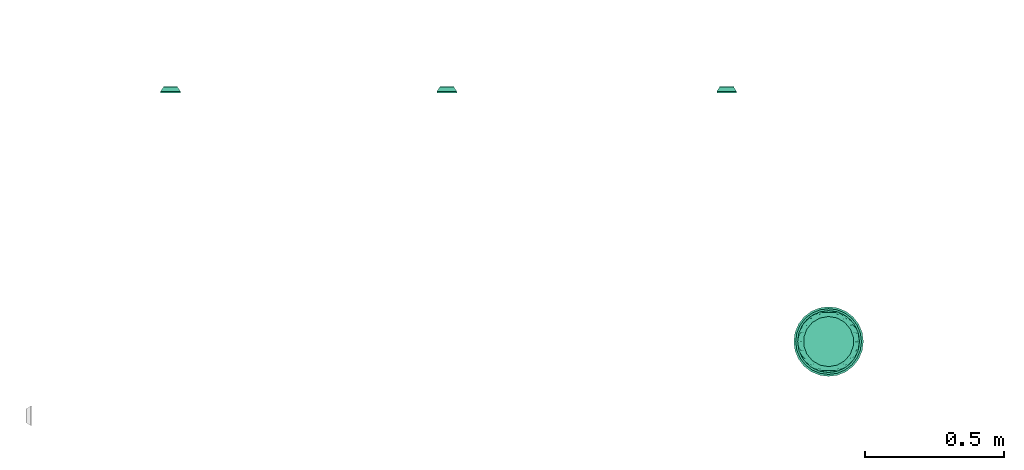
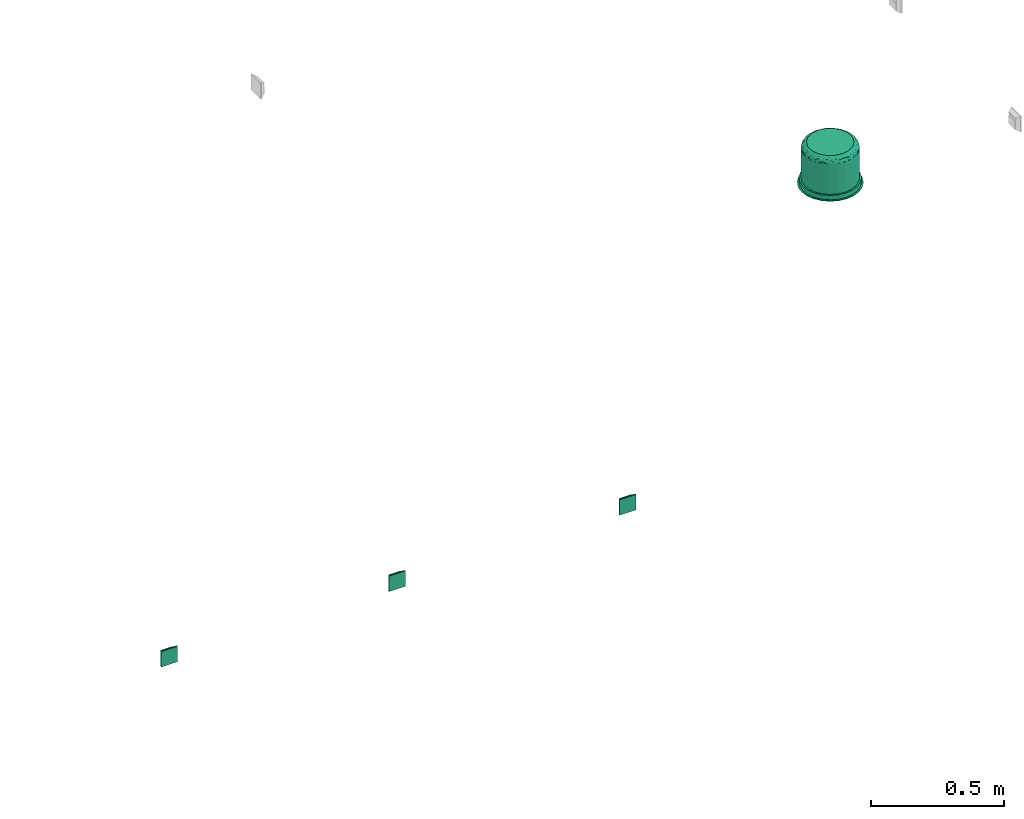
# One storey, part 2 of 5: 4 flow terminals.
"""IFC2X3 building model written with IfcOpenShell, lengths in millimetres."""

from ifc_helpers import new_model, entity, si_unit, converted_unit, derived_unit, direction, frame, origin_with_axes, place, context, subcontext, project, spatial, open_shell, surface_model, source, transform, mapped, type_object, element, save


model = new_model("IFC2X3")

# Units and contexts
model_context = context("Model", 3, precision=0.01, world=frame((0.0, 4.29681676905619e-09, 0.0)), true_north=direction((4.01073788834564e-13, 1.0)))
plan_context = context("Plan", 3, precision=0.01, world=frame((0.0, 4.29681676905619e-09, 0.0)), true_north=direction((4.01073788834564e-13, 1.0)))
body_context = subcontext(model_context, "Body", "Model", "MODEL_VIEW")
ifc_project = project(units=[converted_unit("PLANEANGLEUNIT", "DEGREE", entity("IfcPositiveLengthMeasure", 0.0174532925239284), si_unit("PLANEANGLEUNIT", "RADIAN"), dimensions=[0, 0, 0, 0, 0, 0, 0]), si_unit("AREAUNIT", "SQUARE_METRE"), si_unit("LENGTHUNIT", "METRE", prefix="MILLI"), si_unit("MASSUNIT", "GRAM", prefix="KILO"), si_unit("POWERUNIT", "WATT"), si_unit("PRESSUREUNIT", "PASCAL"), si_unit("FORCEUNIT", "NEWTON", prefix="KILO"), si_unit("ELECTRICVOLTAGEUNIT", "VOLT"), si_unit("ELECTRICCURRENTUNIT", "AMPERE"), si_unit("THERMODYNAMICTEMPERATUREUNIT", "DEGREE_CELSIUS"), si_unit("TIMEUNIT", "SECOND"), si_unit("VOLUMEUNIT", "CUBIC_METRE"), derived_unit("LINEARVELOCITYUNIT", [(si_unit("LENGTHUNIT", "METRE"), 1), (si_unit("TIMEUNIT", "SECOND"), -1)]), derived_unit("VOLUMETRICFLOWRATEUNIT", [(si_unit("VOLUMEUNIT", "CUBIC_METRE"), 1), (si_unit("TIMEUNIT", "SECOND"), -1)]), derived_unit("THERMALTRANSMITTANCEUNIT", [(si_unit("POWERUNIT", "WATT"), 1), (si_unit("THERMODYNAMICTEMPERATUREUNIT", "KELVIN"), -1), (si_unit("AREAUNIT", "SQUARE_METRE"), -1)]), derived_unit("SOUNDPRESSUREUNIT", [(si_unit("PRESSUREUNIT", "PASCAL"), 1)])], contexts=[model_context, plan_context])

# Site, building, storey
site_placement = place(None, frame((0.0, -4.29681676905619e-09, 0.0), z_axis=(0.0, 0.0, 1.0), x_axis=(1.0, 0.0, 0.0)))
site = spatial("IfcSite", under=ifc_project, at=site_placement, Name="ENGM", CompositionType="ELEMENT")
building_placement = place(site_placement, frame((0.0, 4.29681676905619e-09, 0.0), z_axis=(0.0, 0.0, 1.0), x_axis=(1.0, 0.0, 0.0)))
building = spatial("IfcBuilding", under=site, at=building_placement, Name="TS", CompositionType="ELEMENT")
storey_placement = place(building_placement, frame((0.0, 0.0, 210900.0), z_axis=(0.0, 0.0, 1.0), x_axis=(1.0, 0.0, 0.0)))
storey = spatial("IfcBuildingStorey", under=building, at=storey_placement, Name="Nivå F", CompositionType="ELEMENT", Elevation=210900.0)

# Flow terminals
outlet_type = type_object("IfcOutletType", Name="Datauttak enkelt Vegg - IKT", PredefinedType="COMMUNICATIONSOUTLET")
shared_shape_1 = source(origin_with_axes(), body_context, "Body", "SurfaceModel", [
    surface_model("IfcShellBasedSurfaceModel", [(35.5, 5.05547, 35.5832), (25.5, 20.05547, 25.5832), (-35.5, 5.05547, 35.5832), (-25.5, 20.05547, 25.5832), (-35.5, 4.94453, 35.41679), (-25.5, 19.94453, 25.41679), (25.5, 19.94453, 25.41679), (35.5, 4.94453, 35.41679), (35.5, 4.94453, -35.41679), (25.5, 19.94453, -25.41679), (-35.5, 4.94453, -35.41679), (-25.5, 19.94453, -25.41679), (-35.5, 5.05547, -35.5832), (-25.5, 20.05547, -25.5832), (25.5, 20.05547, -25.5832), (35.5, 5.05547, -35.5832), (-25.5832, 20.05547, -25.5), (-35.5832, 5.05547, -35.5), (-35.5832, 5.05547, 35.5), (-25.5832, 20.05547, 25.5), (-25.41679, 19.94453, 25.5), (-35.41679, 4.94453, 35.5), (-25.41679, 19.94453, -25.5), (-35.41679, 4.94453, -35.5), (25.41679, 19.94453, -25.5), (35.41679, 4.94453, -35.5), (35.41679, 4.94453, 35.5), (25.41679, 19.94453, 25.5), (25.5832, 20.05547, 25.5), (35.5832, 5.05547, 35.5), (25.5832, 20.05547, -25.5), (35.5832, 5.05547, -35.5), (35.4, 5.0, -35.5), (35.4, 0.0, -35.5), (35.4, 0.0, 35.5), (35.4, 5.0, 35.5), (35.6, 5.0, 35.5), (35.6, 0.0, 35.5), (35.6, 0.0, -35.5), (35.6, 5.0, -35.5), (-35.5, 0.0, -35.6), (-35.5, 5.0, -35.6), (35.5, 5.0, -35.6), (35.5, 0.0, -35.6), (35.5, 0.0, -35.4), (35.5, 5.0, -35.4), (-35.5, 5.0, -35.4), (-35.5, 0.0, -35.4), (-35.6, 5.0, -35.5), (-35.6, 0.0, -35.5), (-35.6, 0.0, 35.5), (-35.6, 5.0, 35.5), (-35.4, 5.0, 35.5), (-35.4, 0.0, 35.5), (-35.4, 0.0, -35.5), (-35.4, 5.0, -35.5), (-35.5, -0.1, -35.5), (35.5, -0.1, -35.5), (35.5, -0.1, 35.5), (-35.5, -0.1, 35.5), (-35.5, 0.1, 35.5), (35.5, 0.1, 35.5), (35.5, 0.1, -35.5), (-35.5, 0.1, -35.5), (-35.5, 0.0, 35.4), (-35.5, 5.0, 35.4), (35.5, 5.0, 35.4), (35.5, 0.0, 35.4), (35.5, 0.0, 35.6), (35.5, 5.0, 35.6), (-35.5, 5.0, 35.6), (-35.5, 0.0, 35.6), (-25.5, 19.9, -25.5), (25.5, 19.9, -25.5), (25.5, 19.9, 25.5), (-25.5, 19.9, 25.5), (-25.5, 20.1, 25.5), (25.5, 20.1, 25.5), (25.5, 20.1, -25.5), (-25.5, 20.1, -25.5), (-7.5, 21.91, -6.5), (7.5, 21.91, -6.5), (7.5, 21.91, 8.5), (-7.5, 21.91, 8.5), (-7.5, 22.11, 8.5), (7.5, 22.11, 8.5), (-7.5, 22.11, -6.5), (7.5, 22.11, -6.5), (-25.5, 22.0, 25.5), (-25.5, 20.0, 25.5), (25.5, 20.0, 25.5), (25.5, 22.0, 25.5), (25.5, 22.0, 20.5), (25.5, 20.0, 20.5), (-25.5, 20.0, 20.5), (-25.5, 22.0, 20.5), (-25.5, 22.0, 10.5), (-25.5, 20.0, 10.5), (25.5, 20.0, 10.5), (25.5, 22.0, 10.5), (25.5, 22.0, -25.5), (25.5, 20.0, -25.5), (-25.5, 20.0, -25.5), (-25.5, 22.0, -25.5)], [open_shell([[[0, 1, 2]], [[3, 2, 1]], [[4, 5, 6]], [[6, 7, 4]], [[3, 1, 6]], [[6, 5, 3]], [[2, 3, 4]], [[5, 4, 3]], [[0, 2, 7]], [[4, 7, 2]], [[1, 0, 6]], [[7, 6, 0]], [[8, 9, 10]], [[11, 10, 9]], [[12, 13, 14]], [[14, 15, 12]], [[11, 9, 14]], [[14, 13, 11]], [[10, 11, 12]], [[13, 12, 11]], [[8, 10, 12]], [[12, 15, 8]], [[9, 8, 14]], [[15, 14, 8]], [[16, 17, 18]], [[18, 19, 16]], [[20, 21, 22]], [[23, 22, 21]], [[18, 17, 23]], [[23, 21, 18]], [[19, 18, 20]], [[21, 20, 18]], [[16, 19, 20]], [[20, 22, 16]], [[17, 16, 22]], [[22, 23, 17]], [[24, 25, 26]], [[26, 27, 24]], [[28, 29, 30]], [[31, 30, 29]], [[26, 25, 31]], [[31, 29, 26]], [[27, 26, 28]], [[29, 28, 26]], [[24, 27, 28]], [[28, 30, 24]], [[25, 24, 30]], [[30, 31, 25]], [[32, 33, 34]], [[34, 35, 32]], [[36, 37, 38]], [[38, 39, 36]], [[34, 33, 38]], [[38, 37, 34]], [[35, 34, 37]], [[37, 36, 35]], [[32, 35, 36]], [[36, 39, 32]], [[33, 32, 39]], [[39, 38, 33]], [[40, 41, 42]], [[42, 43, 40]], [[44, 45, 46]], [[46, 47, 44]], [[42, 41, 46]], [[46, 45, 42]], [[43, 42, 45]], [[45, 44, 43]], [[40, 43, 44]], [[44, 47, 40]], [[41, 40, 47]], [[47, 46, 41]], [[48, 49, 50]], [[50, 51, 48]], [[52, 53, 54]], [[54, 55, 52]], [[50, 49, 54]], [[54, 53, 50]], [[51, 50, 53]], [[53, 52, 51]], [[48, 51, 52]], [[52, 55, 48]], [[49, 48, 55]], [[55, 54, 49]], [[56, 57, 58]], [[58, 59, 56]], [[60, 61, 62]], [[62, 63, 60]], [[58, 57, 62]], [[62, 61, 58]], [[59, 58, 61]], [[61, 60, 59]], [[56, 59, 60]], [[60, 63, 56]], [[57, 56, 63]], [[63, 62, 57]], [[64, 65, 66]], [[66, 67, 64]], [[68, 69, 70]], [[70, 71, 68]], [[66, 65, 70]], [[70, 69, 66]], [[67, 66, 69]], [[69, 68, 67]], [[64, 67, 68]], [[68, 71, 64]], [[65, 64, 71]], [[71, 70, 65]], [[72, 73, 74]], [[74, 75, 72]], [[76, 77, 78]], [[78, 79, 76]], [[74, 73, 78]], [[78, 77, 74]], [[75, 74, 77]], [[77, 76, 75]], [[72, 75, 76]], [[76, 79, 72]], [[73, 72, 79]], [[79, 78, 73]], [[80, 81, 82]], [[82, 83, 80]], [[84, 85, 86]], [[87, 86, 85]], [[82, 81, 87]], [[87, 85, 82]], [[83, 82, 85]], [[85, 84, 83]], [[80, 83, 84]], [[84, 86, 80]], [[81, 80, 86]], [[86, 87, 81]], [[88, 89, 90]], [[90, 91, 88]], [[92, 93, 94]], [[94, 95, 92]], [[90, 89, 94]], [[94, 93, 90]], [[91, 90, 93]], [[93, 92, 91]], [[88, 91, 92]], [[92, 95, 88]], [[89, 88, 95]], [[95, 94, 89]], [[96, 97, 98]], [[98, 99, 96]], [[100, 101, 102]], [[102, 103, 100]], [[98, 97, 102]], [[102, 101, 98]], [[99, 98, 101]], [[101, 100, 99]], [[96, 99, 100]], [[100, 103, 96]], [[97, 96, 103]], [[103, 102, 97]]])]),
])
for number, where, z_axis, x_axis, name in (
    (1, (531367.69861, 443207.0, 1100.0), (0.0, 0.0, 1.0), (1.0, 0.0, 0.0), "Datauttak enkelt Vegg - IKT"),
    (2, (532359.58685, 443207.0, 1100.0), (0.0, 0.0, 1.0), (1.0, 0.0, 0.0), "Datauttak enkelt Vegg - IKT"),
    (3, (533363.76866, 443207.1, 1100.0), (0.0, 0.0, 1.0), (1.0, 0.0, 0.0), "Datauttak enkelt Vegg - IKT"),
):
    element("IfcFlowTerminal", number, at=place(storey_placement, frame(where, z_axis=z_axis, x_axis=x_axis)), inside=storey, type_object=outlet_type, Name=name, context=body_context, shape_type="MappedRepresentation", body=[
        mapped(shared_shape_1, transform((0.0, 0.0, 0.0), scale=1.0)),
    ])
electric_appliance_type = type_object("IfcElectricApplianceType", Name="Høyttaler innfelt", PredefinedType="NOTDEFINED")
shared_shape_2 = source(origin_with_axes(), body_context, "Body", "SurfaceModel", [
    surface_model("IfcShellBasedSurfaceModel", [(-68.944, 57.85088, 184.0), (-58.59195, 79.97902, 179.50754), (-80.0329, 55.28406, 180.76938), (-78.29994, 75.83774, 166.88554), (-50.40099, 96.24365, 167.73947), (-65.24416, 89.80089, 159.0), (-45.0, 77.94229, 184.0), (104.29833, 0.0, 174.69059), (98.55658, 30.89802, 175.83351), (97.14917, 0.0, 179.3453), (-98.55658, 30.89802, 175.83351), (-104.29833, 0.0, 174.69059), (-97.14917, 0.0, 179.3453), (93.09772, 49.71788, 173.10261), (104.32878, 23.10743, 171.13623), (97.92626, 46.3605, 168.38431), (-15.62834, 88.6327, 184.0), (-30.79138, 92.23996, 180.78615), (-104.32878, 23.10743, 171.13623), (55.89313, 88.54638, 174.18746), (30.93861, 99.42219, 174.89528), (58.59195, 79.97902, 179.50754), (-97.92626, 46.3605, 168.38431), (-93.09772, 49.71788, 173.10261), (-61.47959, 85.0435, 173.90083), (-30.93861, 99.42219, 174.89528), (45.0, 77.94229, 184.0), (68.944, 57.85088, 184.0), (-84.57234, 30.78181, 184.0), (-92.49153, 28.27678, 181.10339), (-89.80089, 65.24416, 159.0), (17.39577, 107.47851, 167.19599), (34.30089, 105.56728, 159.0), (0.0, 111.0, 159.0), (-34.30089, 105.56728, 159.0), (-17.39574, 107.47094, 167.21376), (30.79138, 92.23996, 180.78615), (0.0, 99.14465, 179.50754), (15.62834, 88.6327, 184.0), (-81.90835, 64.40302, 174.81219), (0.05017, 105.30857, 173.41796), (80.0329, 55.28406, 180.76938), (84.57234, 30.78181, 184.0), (90.0, 0.0, 184.0), (92.49153, 28.27678, 181.10339), (50.40099, 96.24365, 167.73947), (89.80089, 65.24416, 159.0), (105.56728, 34.30089, 159.0), (65.24416, 89.80089, 159.0), (-105.56728, 34.30089, 159.0), (78.29994, 75.83774, 166.88554), (105.52114, 29.61929, 165.29825), (90.11049, 46.65977, 177.6147), (-90.11049, 46.65977, 177.6147), (-107.8502, 0.0, 166.3746), (-105.52114, 29.61929, 165.29825), (-90.0, 0.0, 184.0), (81.90835, 64.40302, 174.81219), (-111.0, 0.0, 159.0), (111.0, 0.0, 159.0), (107.8502, 0.0, 166.3746), (68.944, -57.85088, 184.0), (58.59195, -79.97902, 179.50754), (80.0329, -55.28406, 180.76938), (78.29994, -75.83774, 166.88554), (50.40099, -96.24365, 167.73947), (65.24416, -89.80089, 159.0), (45.0, -77.94229, 184.0), (-98.55658, -30.89802, 175.83351), (98.55658, -30.89802, 175.83351), (-93.09772, -49.71788, 173.10261), (-104.32878, -23.10743, 171.13623), (-97.92626, -46.3605, 168.38431), (15.62834, -88.6327, 184.0), (30.79138, -92.23996, 180.78615), (104.32878, -23.10743, 171.13623), (-55.89313, -88.54638, 174.18746), (-30.93861, -99.42219, 174.89528), (-58.59195, -79.97902, 179.50754), (97.92626, -46.3605, 168.38431), (93.09772, -49.71788, 173.10261), (61.47959, -85.0435, 173.90083), (30.93861, -99.42219, 174.89528), (-45.0, -77.94229, 184.0), (-68.944, -57.85088, 184.0), (84.57234, -30.78181, 184.0), (92.49153, -28.27678, 181.10339), (89.80089, -65.24416, 159.0), (-17.39577, -107.47851, 167.19599), (-34.30089, -105.56728, 159.0), (0.0, -111.0, 159.0), (34.30089, -105.56728, 159.0), (17.39574, -107.47094, 167.21376), (81.90835, -64.40302, 174.81219), (-30.79138, -92.23996, 180.78615), (-15.62834, -88.6327, 184.0), (0.0, -99.14465, 179.50754), (-0.05017, -105.30857, 173.41796), (-80.0329, -55.28406, 180.76938), (-84.57234, -30.78181, 184.0), (-92.49153, -28.27678, 181.10339), (-50.40099, -96.24365, 167.73947), (-89.80089, -65.24416, 159.0), (-105.56728, -34.30089, 159.0), (-65.24416, -89.80089, 159.0), (-78.29994, -75.83774, 166.88554), (-90.11049, -46.65977, 177.6147), (-105.52114, -29.61929, 165.29825), (105.56728, -34.30089, 159.0), (90.11049, -46.65977, 177.6147), (105.52114, -29.61929, 165.29825), (-81.90835, -64.40302, 174.81219), (0.0, 0.0, 159.0), (0.0, 0.0, 184.0), (96.12882, -55.5, 159.0), (28.72892, -107.21777, 159.0), (55.5, -96.12882, 159.0), (78.48885, -78.48885, 159.0), (107.21777, -28.72892, 159.0), (-78.48885, -78.48885, 159.0), (-96.12882, 55.5, 159.0), (-55.5, -96.12882, 159.0), (-28.72892, -107.21777, 159.0), (-96.12882, -55.5, 159.0), (-107.21777, -28.72892, 159.0), (107.21777, 28.72892, 159.0), (55.5, 96.12882, 159.0), (96.12882, 55.5, 159.0), (78.48885, 78.48885, 159.0), (28.72892, 107.21777, 159.0), (-28.72892, 107.21777, 159.0), (-107.21777, 28.72892, 159.0), (-78.48885, 78.48885, 159.0), (-55.5, 96.12882, 159.0), (28.72892, 107.21777, 20.0), (-28.72892, 107.21777, 20.0), (0.0, 111.0, 20.0), (96.12882, 55.5, 20.0), (55.5, 96.12882, 20.0), (107.21777, 28.72892, 20.0), (78.48885, 78.48885, 20.0), (-96.12882, 55.5, 20.0), (-78.48885, 78.48885, 20.0), (-55.5, 96.12882, 20.0), (-107.21777, 28.72892, 20.0), (-96.12882, -55.5, 20.0), (-111.0, 0.0, 20.0), (-78.48885, -78.48885, 20.0), (111.0, 0.0, 20.0), (107.21777, -28.72892, 20.0), (96.12882, -55.5, 20.0), (28.72892, -107.21777, 20.0), (55.5, -96.12882, 20.0), (78.48885, -78.48885, 20.0), (-107.21777, -28.72892, 20.0), (-55.5, -96.12882, 20.0), (0.0, -111.0, 20.0), (-28.72892, -107.21777, 20.0), (0.0, -118.0, 20.0), (30.54065, -113.97924, 20.0), (59.0, -102.191, 20.0), (83.4386, -83.4386, 20.0), (102.191, -59.0, 20.0), (113.97924, -30.54065, 20.0), (118.0, 0.0, 20.0), (-30.54065, -113.97924, 20.0), (-83.4386, -83.4386, 20.0), (-59.0, -102.191, 20.0), (-118.0, 0.0, 20.0), (-102.191, -59.0, 20.0), (-113.97924, -30.54065, 20.0), (113.97924, 30.54065, 20.0), (102.191, 59.0, 20.0), (83.4386, 83.4386, 20.0), (59.0, 102.191, 20.0), (30.54065, 113.97924, 20.0), (0.0, 118.0, 20.0), (-30.54065, 113.97924, 20.0), (-102.191, 59.0, 20.0), (-113.97924, 30.54065, 20.0), (-83.4386, 83.4386, 20.0), (-59.0, 102.191, 20.0), (0.0, 118.0, 0.0), (30.54065, 113.97924, 0.0), (59.0, 102.191, 0.0), (-83.4386, 83.4386, 0.0), (83.4386, 83.4386, 0.0), (102.191, 59.0, 0.0), (113.97924, 30.54065, 0.0), (-118.0, 0.0, 0.0), (-113.97924, -30.54065, 0.0), (-30.54065, 113.97924, 0.0), (-59.0, 102.191, 0.0), (-102.191, 59.0, 0.0), (-113.97924, 30.54065, 0.0), (118.0, 0.0, 0.0), (113.97924, -30.54065, 0.0), (102.191, -59.0, 0.0), (83.4386, -83.4386, 0.0), (59.0, -102.191, 0.0), (30.54065, -113.97924, 0.0), (-83.4386, -83.4386, 0.0), (-102.191, -59.0, 0.0), (-30.54065, -113.97924, 0.0), (-59.0, -102.191, 0.0), (0.0, -118.0, 0.0), (-32.35238, 120.74073, 0.0), (-62.5, 108.25318, 0.0), (-88.38835, 88.38835, 0.0), (-108.25318, 62.5, 0.0), (-120.74073, 32.35238, 0.0), (62.5, 108.25318, 0.0), (-125.0, 0.0, 0.0), (0.0, 125.0, 0.0), (32.35238, 120.74073, 0.0), (88.38835, 88.38835, 0.0), (120.74073, 32.35238, 0.0), (108.25318, 62.5, 0.0), (-120.74073, -32.35238, 0.0), (125.0, 0.0, 0.0), (-108.25318, -62.5, 0.0), (-32.35238, -120.74073, 0.0), (-88.38835, -88.38835, 0.0), (-62.5, -108.25318, 0.0), (0.0, -125.0, 0.0), (120.74073, -32.35238, 0.0), (88.38835, -88.38835, 0.0), (108.25318, -62.5, 0.0), (32.35238, -120.74073, 0.0), (62.5, -108.25318, 0.0), (-32.35238, -120.74073, -3.0), (88.38835, -88.38835, -3.0), (0.0, -125.0, -3.0), (-88.38835, -88.38835, -3.0), (-62.5, -108.25318, -3.0), (-108.25318, -62.5, -3.0), (-120.74073, -32.35238, -3.0), (88.38835, 88.38835, -3.0), (32.35238, -120.74073, -3.0), (62.5, -108.25318, -3.0), (120.74073, -32.35238, -3.0), (108.25318, -62.5, -3.0), (125.0, 0.0, -3.0), (-125.0, 0.0, -3.0), (-120.74073, 32.35238, -3.0), (-32.35238, 120.74073, -3.0), (-108.25318, 62.5, -3.0), (-88.38835, 88.38835, -3.0), (-62.5, 108.25318, -3.0), (120.74073, 32.35238, -3.0), (108.25318, 62.5, -3.0), (62.5, 108.25318, -3.0), (0.0, 125.0, -3.0), (32.35238, 120.74073, -3.0), (-84.57234, 30.78181, -6.0), (-102.5, 0.0, -5.0), (-96.31849, 35.05706, -5.0), (-45.0, 77.94229, -6.0), (-78.51955, 65.88573, -5.0), (-51.25, 88.7676, -5.0), (-68.944, 57.85088, -6.0), (-17.79894, 100.94279, -5.0), (-15.62834, 88.6327, -6.0), (-90.0, 0.0, -6.0), (15.62834, 88.6327, -6.0), (45.0, 77.94229, -6.0), (17.79894, 100.94279, -5.0), (51.25, 88.7676, -5.0), (96.31849, 35.05706, -5.0), (102.5, 0.0, -5.0), (90.0, 0.0, -6.0), (78.51955, 65.88573, -5.0), (68.944, 57.85088, -6.0), (84.57234, 30.78181, -6.0), (84.57234, -30.78181, -6.0), (96.31849, -35.05706, -5.0), (45.0, -77.94229, -6.0), (78.51955, -65.88573, -5.0), (51.25, -88.7676, -5.0), (68.944, -57.85088, -6.0), (17.79894, -100.94279, -5.0), (15.62834, -88.6327, -6.0), (-15.62834, -88.6327, -6.0), (-45.0, -77.94229, -6.0), (-17.79894, -100.94279, -5.0), (-51.25, -88.7676, -5.0), (-84.57234, -30.78181, -6.0), (-78.51955, -65.88573, -5.0), (-96.31849, -35.05706, -5.0), (-68.944, -57.85088, -6.0), (0.0, 0.0, -6.0), (106.99386, 34.76441, -3.0), (0.0, 0.0, -3.0), (112.5, 0.0, -3.0), (91.01441, 66.12584, -3.0), (66.12584, 91.01441, -3.0), (34.76441, 106.99386, -3.0), (0.0, 112.5, -3.0), (-91.01441, 66.12584, -3.0), (-106.99386, 34.76441, -3.0), (-66.12584, 91.01441, -3.0), (-34.76441, 106.99386, -3.0), (-112.5, 0.0, -3.0), (66.12584, -91.01441, -3.0), (91.01441, -66.12584, -3.0), (34.76441, -106.99386, -3.0), (106.99386, -34.76441, -3.0), (0.0, -112.5, -3.0), (-66.12584, -91.01441, -3.0), (-34.76441, -106.99386, -3.0), (-91.01441, -66.12584, -3.0), (-106.99386, -34.76441, -3.0)], [open_shell([[[0, 1, 2]], [[3, 4, 5]], [[0, 6, 1]], [[7, 8, 9]], [[10, 11, 12]], [[13, 14, 15]], [[7, 14, 8]], [[6, 16, 17]], [[18, 11, 10]], [[19, 20, 21]], [[22, 23, 3]], [[24, 25, 4]], [[26, 27, 21]], [[28, 2, 29]], [[3, 5, 30]], [[31, 32, 33]], [[33, 34, 35]], [[36, 37, 38]], [[4, 35, 34]], [[1, 24, 39]], [[26, 36, 38]], [[17, 37, 25]], [[20, 31, 40]], [[21, 20, 36]], [[41, 21, 27]], [[41, 27, 42]], [[0, 2, 28]], [[43, 9, 44]], [[20, 19, 45]], [[46, 15, 47]], [[17, 1, 6]], [[31, 20, 45]], [[48, 32, 45]], [[30, 49, 22]], [[34, 5, 4]], [[15, 46, 50]], [[14, 51, 15]], [[48, 50, 46]], [[33, 35, 31]], [[8, 13, 52]], [[2, 39, 53]], [[37, 16, 38]], [[54, 18, 55]], [[28, 29, 56]], [[45, 19, 50]], [[37, 17, 16]], [[1, 17, 25]], [[21, 36, 26]], [[37, 36, 20]], [[1, 39, 2]], [[23, 53, 39]], [[44, 41, 42]], [[57, 21, 41]], [[10, 12, 29]], [[22, 18, 23]], [[13, 8, 14]], [[52, 41, 44]], [[4, 25, 35]], [[25, 37, 40]], [[31, 35, 40]], [[45, 32, 31]], [[22, 3, 30]], [[3, 39, 24]], [[45, 50, 48]], [[50, 57, 13]], [[58, 54, 55]], [[23, 18, 10]], [[59, 47, 51]], [[56, 29, 12]], [[43, 44, 42]], [[8, 44, 9]], [[25, 40, 35]], [[20, 40, 37]], [[25, 24, 1]], [[3, 24, 4]], [[21, 57, 19]], [[50, 19, 57]], [[53, 23, 10]], [[3, 23, 39]], [[10, 29, 53]], [[2, 53, 29]], [[50, 13, 15]], [[52, 13, 57]], [[41, 52, 57]], [[44, 8, 52]], [[55, 18, 22]], [[54, 11, 18]], [[22, 49, 55]], [[55, 49, 58]], [[7, 60, 14]], [[60, 59, 51]], [[60, 51, 14]], [[47, 15, 51]], [[61, 62, 63]], [[64, 65, 66]], [[61, 67, 62]], [[11, 68, 12]], [[69, 7, 9]], [[70, 71, 72]], [[11, 71, 68]], [[67, 73, 74]], [[75, 7, 69]], [[76, 77, 78]], [[79, 80, 64]], [[81, 82, 65]], [[83, 84, 78]], [[85, 63, 86]], [[64, 66, 87]], [[88, 89, 90]], [[90, 91, 92]], [[91, 66, 65]], [[65, 92, 91]], [[62, 81, 93]], [[83, 94, 95]], [[74, 96, 82]], [[77, 88, 97]], [[78, 77, 94]], [[98, 78, 84]], [[98, 84, 99]], [[61, 63, 85]], [[56, 12, 100]], [[77, 76, 101]], [[102, 72, 103]], [[104, 105, 102]], [[88, 77, 101]], [[104, 89, 101]], [[68, 70, 106]], [[74, 62, 67]], [[72, 102, 105]], [[71, 107, 72]], [[87, 108, 79]], [[90, 92, 88]], [[94, 96, 95]], [[63, 93, 109]], [[96, 73, 95]], [[60, 75, 110]], [[85, 86, 43]], [[101, 76, 105]], [[96, 74, 73]], [[62, 74, 82]], [[78, 94, 83]], [[96, 94, 77]], [[62, 93, 63]], [[80, 109, 93]], [[100, 98, 99]], [[111, 78, 98]], [[69, 9, 86]], [[79, 75, 80]], [[70, 68, 71]], [[106, 98, 100]], [[65, 82, 92]], [[82, 96, 97]], [[88, 92, 97]], [[101, 89, 88]], [[79, 64, 87]], [[64, 93, 81]], [[101, 105, 104]], [[105, 111, 70]], [[59, 60, 110]], [[80, 75, 69]], [[58, 103, 107]], [[43, 86, 9]], [[56, 100, 99]], [[68, 100, 12]], [[82, 97, 92]], [[77, 97, 96]], [[82, 81, 62]], [[64, 81, 65]], [[78, 111, 76]], [[105, 76, 111]], [[109, 80, 69]], [[64, 80, 93]], [[69, 86, 109]], [[63, 109, 86]], [[105, 70, 72]], [[106, 70, 111]], [[98, 106, 111]], [[100, 68, 106]], [[110, 75, 79]], [[60, 7, 75]], [[79, 108, 110]], [[110, 108, 59]], [[11, 54, 71]], [[54, 58, 107]], [[54, 107, 71]], [[103, 72, 107]], [[59, 112, 47]], [[47, 112, 46]], [[112, 48, 46]], [[48, 112, 32]], [[112, 33, 32]], [[112, 49, 30]], [[30, 5, 112]], [[34, 33, 112]], [[112, 5, 34]], [[112, 58, 49]], [[112, 87, 66]], [[112, 66, 91]], [[112, 108, 87]], [[59, 108, 112]], [[91, 90, 112]], [[112, 89, 104]], [[112, 104, 102]], [[112, 103, 58]], [[103, 112, 102]], [[89, 112, 90]], [[27, 113, 42]], [[26, 113, 27]], [[113, 26, 38]], [[113, 43, 42]], [[28, 56, 113]], [[0, 28, 113]], [[16, 6, 113]], [[0, 113, 6]], [[38, 16, 113]], [[67, 61, 113]], [[61, 85, 113]], [[113, 85, 43]], [[73, 67, 113]], [[83, 95, 113]], [[84, 83, 113]], [[56, 99, 113]], [[84, 113, 99]], [[73, 113, 95]], [[114, 115, 116]], [[114, 116, 117]], [[114, 118, 59]], [[114, 59, 115]], [[119, 115, 120]], [[90, 121, 122]], [[90, 115, 121]], [[123, 58, 124]], [[121, 115, 119]], [[123, 119, 58]], [[125, 115, 59]], [[126, 125, 127]], [[126, 127, 128]], [[125, 129, 120]], [[129, 125, 126]], [[130, 129, 33]], [[119, 131, 58]], [[120, 131, 119]], [[132, 130, 133]], [[130, 132, 120]], [[129, 130, 120]], [[120, 115, 125]], [[134, 135, 136]], [[137, 134, 138]], [[137, 139, 134]], [[137, 138, 140]], [[141, 134, 139]], [[135, 142, 143]], [[142, 135, 141]], [[144, 145, 146]], [[141, 135, 134]], [[144, 141, 145]], [[141, 139, 147]], [[148, 149, 150]], [[150, 151, 139]], [[152, 151, 150]], [[152, 150, 153]], [[139, 151, 147]], [[146, 145, 154]], [[147, 145, 141]], [[155, 156, 157]], [[155, 147, 151]], [[156, 155, 151]], [[139, 148, 150]], [[124, 154, 145]], [[147, 123, 145]], [[121, 155, 157]], [[147, 155, 119]], [[122, 157, 156]], [[154, 58, 146]], [[154, 124, 58]], [[145, 123, 124]], [[147, 119, 123]], [[121, 119, 155]], [[157, 122, 121]], [[156, 90, 122]], [[115, 151, 152]], [[153, 116, 152]], [[114, 150, 149]], [[153, 150, 117]], [[118, 149, 148]], [[151, 115, 90]], [[152, 116, 115]], [[153, 117, 116]], [[150, 114, 117]], [[118, 114, 149]], [[148, 59, 118]], [[151, 90, 156]], [[125, 148, 139]], [[127, 139, 137]], [[126, 138, 134]], [[129, 134, 136]], [[139, 127, 125]], [[125, 59, 148]], [[140, 128, 127]], [[140, 138, 128]], [[128, 138, 126]], [[134, 129, 126]], [[140, 127, 137]], [[136, 33, 129]], [[130, 135, 143]], [[142, 133, 143]], [[120, 141, 144]], [[142, 141, 132]], [[131, 144, 146]], [[135, 130, 33]], [[143, 133, 130]], [[142, 132, 133]], [[141, 120, 132]], [[131, 120, 144]], [[146, 58, 131]], [[135, 33, 136]], [[158, 159, 160]], [[161, 158, 160]], [[162, 163, 164]], [[158, 161, 162]], [[158, 162, 164]], [[165, 166, 167]], [[166, 165, 158]], [[164, 166, 158]], [[166, 168, 169]], [[169, 168, 170]], [[168, 166, 164]], [[171, 172, 173]], [[168, 171, 173]], [[174, 175, 176]], [[168, 173, 174]], [[177, 174, 176]], [[168, 178, 179]], [[178, 168, 177]], [[180, 177, 181]], [[177, 180, 178]], [[168, 174, 177]], [[171, 168, 164]], [[182, 183, 184]], [[185, 182, 184]], [[186, 187, 188]], [[189, 184, 186]], [[190, 189, 186]], [[191, 185, 192]], [[191, 182, 185]], [[193, 189, 194]], [[185, 184, 193]], [[184, 189, 193]], [[186, 188, 190]], [[195, 196, 197]], [[197, 198, 188]], [[190, 198, 199]], [[198, 190, 188]], [[200, 190, 199]], [[200, 201, 202]], [[202, 190, 200]], [[201, 203, 204]], [[203, 201, 205]], [[205, 201, 200]], [[188, 195, 197]], [[190, 170, 189]], [[202, 169, 190]], [[167, 201, 204]], [[202, 201, 166]], [[165, 204, 203]], [[190, 169, 170]], [[170, 168, 189]], [[165, 167, 204]], [[166, 201, 167]], [[166, 169, 202]], [[158, 165, 203]], [[203, 205, 158]], [[200, 159, 205]], [[199, 160, 200]], [[162, 198, 197]], [[199, 198, 161]], [[163, 197, 196]], [[199, 161, 160]], [[160, 159, 200]], [[164, 163, 196]], [[162, 197, 163]], [[162, 161, 198]], [[195, 164, 196]], [[205, 159, 158]], [[188, 171, 195]], [[187, 172, 188]], [[174, 186, 184]], [[187, 186, 173]], [[175, 184, 183]], [[188, 172, 171]], [[171, 164, 195]], [[175, 174, 184]], [[173, 186, 174]], [[173, 172, 187]], [[176, 175, 183]], [[183, 182, 176]], [[191, 177, 182]], [[192, 181, 191]], [[179, 194, 189]], [[185, 180, 192]], [[192, 180, 181]], [[181, 177, 191]], [[193, 178, 180]], [[193, 194, 178]], [[178, 194, 179]], [[189, 168, 179]], [[193, 180, 185]], [[182, 177, 176]], [[206, 207, 208]], [[206, 208, 209]], [[206, 210, 211]], [[210, 206, 209]], [[211, 210, 212]], [[213, 211, 214]], [[213, 206, 211]], [[215, 216, 217]], [[218, 215, 211]], [[219, 216, 215]], [[218, 211, 212]], [[220, 219, 218]], [[221, 220, 222]], [[220, 221, 219]], [[221, 222, 223]], [[224, 219, 221]], [[225, 226, 227]], [[226, 225, 219]], [[226, 228, 229]], [[228, 226, 219]], [[219, 224, 228]], [[218, 219, 215]], [[230, 231, 232]], [[233, 230, 234]], [[235, 236, 230]], [[235, 230, 233]], [[230, 237, 231]], [[238, 231, 239]], [[238, 232, 231]], [[231, 240, 241]], [[240, 231, 242]], [[231, 237, 242]], [[230, 236, 243]], [[244, 237, 243]], [[245, 244, 246]], [[247, 248, 245]], [[247, 245, 246]], [[237, 244, 245]], [[249, 237, 250]], [[242, 237, 249]], [[251, 252, 253]], [[252, 251, 237]], [[245, 252, 237]], [[237, 230, 243]], [[249, 216, 242]], [[250, 217, 249]], [[211, 237, 251]], [[250, 237, 215]], [[214, 251, 253]], [[249, 217, 216]], [[216, 219, 242]], [[214, 211, 251]], [[215, 237, 211]], [[215, 217, 250]], [[213, 214, 253]], [[253, 252, 213]], [[245, 206, 252]], [[248, 207, 245]], [[209, 247, 246]], [[248, 247, 208]], [[210, 246, 244]], [[248, 208, 207]], [[207, 206, 245]], [[212, 210, 244]], [[209, 246, 210]], [[209, 208, 247]], [[243, 212, 244]], [[252, 206, 213]], [[236, 218, 243]], [[235, 220, 236]], [[223, 233, 234]], [[235, 233, 222]], [[221, 234, 230]], [[236, 220, 218]], [[218, 212, 243]], [[221, 223, 234]], [[222, 233, 223]], [[222, 220, 235]], [[224, 221, 230]], [[230, 232, 224]], [[228, 232, 238]], [[239, 229, 238]], [[227, 241, 240]], [[225, 240, 242]], [[239, 226, 229]], [[229, 228, 238]], [[231, 227, 226]], [[231, 241, 227]], [[227, 240, 225]], [[242, 219, 225]], [[231, 226, 239]], [[232, 228, 224]], [[254, 255, 256]], [[257, 258, 259]], [[256, 258, 260]], [[259, 261, 262]], [[263, 255, 254]], [[258, 257, 260]], [[260, 254, 256]], [[257, 259, 262]], [[261, 264, 262]], [[265, 266, 267]], [[268, 269, 270]], [[267, 271, 272]], [[268, 272, 271]], [[264, 266, 265]], [[265, 267, 272]], [[270, 273, 268]], [[268, 273, 272]], [[266, 264, 261]], [[274, 269, 275]], [[276, 277, 278]], [[275, 277, 279]], [[278, 280, 281]], [[270, 269, 274]], [[277, 276, 279]], [[279, 274, 275]], [[276, 278, 281]], [[280, 282, 281]], [[283, 284, 285]], [[286, 287, 288]], [[285, 287, 289]], [[288, 255, 263]], [[282, 284, 283]], [[287, 286, 289]], [[289, 283, 285]], [[286, 288, 263]], [[284, 282, 280]], [[273, 290, 272]], [[272, 290, 265]], [[264, 265, 290]], [[273, 270, 290]], [[290, 263, 254]], [[290, 254, 260]], [[290, 257, 262]], [[257, 290, 260]], [[290, 262, 264]], [[290, 279, 276]], [[290, 274, 279]], [[270, 274, 290]], [[290, 276, 281]], [[290, 282, 283]], [[290, 283, 289]], [[290, 286, 263]], [[286, 290, 289]], [[282, 290, 281]], [[291, 292, 293]], [[294, 292, 291]], [[294, 295, 292]], [[296, 292, 295]], [[296, 297, 292]], [[298, 299, 292]], [[292, 300, 298]], [[292, 297, 301]], [[301, 300, 292]], [[299, 302, 292]], [[303, 304, 292]], [[305, 303, 292]], [[304, 306, 292]], [[292, 306, 293]], [[292, 307, 305]], [[308, 309, 292]], [[310, 308, 292]], [[302, 311, 292]], [[310, 292, 311]], [[307, 292, 309]], [[255, 302, 299]], [[258, 298, 300]], [[299, 298, 256]], [[300, 301, 259]], [[255, 299, 256]], [[300, 259, 258]], [[258, 256, 298]], [[259, 301, 261]], [[301, 297, 261]], [[266, 297, 296]], [[291, 293, 269]], [[267, 296, 295]], [[295, 271, 267]], [[267, 266, 296]], [[291, 268, 294]], [[268, 291, 269]], [[294, 268, 271]], [[294, 271, 295]], [[297, 266, 261]], [[269, 293, 306]], [[277, 304, 303]], [[306, 304, 275]], [[303, 305, 278]], [[269, 306, 275]], [[303, 278, 277]], [[277, 275, 304]], [[278, 305, 280]], [[305, 307, 280]], [[284, 307, 309]], [[287, 308, 310]], [[309, 308, 285]], [[310, 311, 288]], [[308, 287, 285]], [[285, 284, 309]], [[311, 255, 288]], [[288, 287, 310]], [[311, 302, 255]], [[307, 284, 280]]])]),
])
flow_terminal_placement = place(storey_placement, frame((533729.38346, 442314.21207, 3000.0), z_axis=(0.0, 0.0, 1.0), x_axis=(0.0, -1.0, 0.0)))
element("IfcFlowTerminal", 4, at=flow_terminal_placement, inside=storey, type_object=electric_appliance_type, Name="Høyttaler innfelt", context=body_context, shape_type="MappedRepresentation", body=[
    mapped(shared_shape_2, transform((0.0, 0.0, 0.0), scale=1.0)),
])

save(model, "model.ifc")
